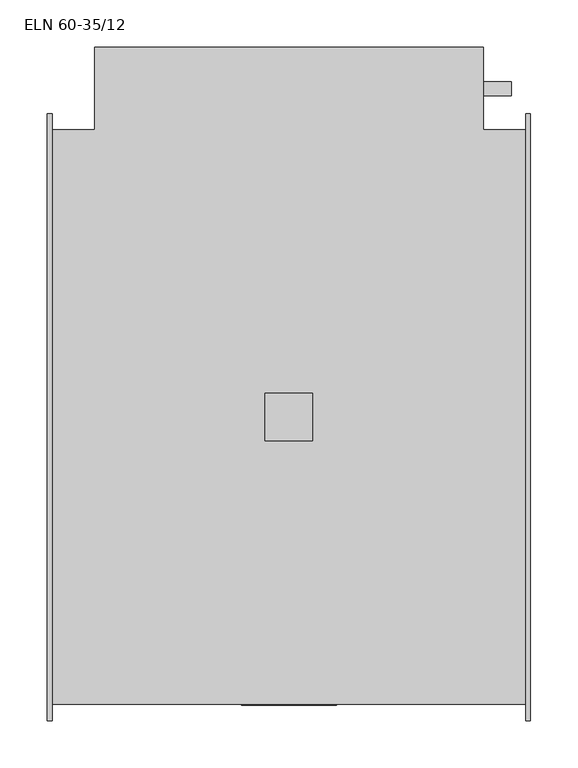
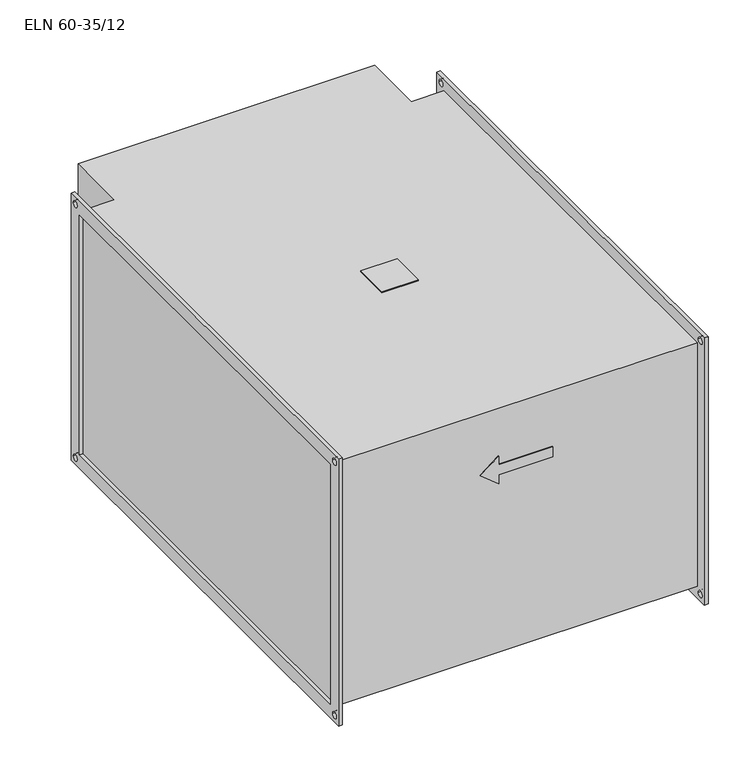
"""IFC4 building model written with IfcOpenShell, lengths in millimetres: proxy geometry, KORF_Нагреватель_Электрический_ELN : ELN 60-35/12."""

from ifc_helpers import new_model, si_unit, point, frame, frame_2d, origin, place, context, project, spatial, polyline, circle_curve, trimmed, segment, composite_curve, outline, extrude, source, transform, mapped, element, save


def eln_60_35_12_623b2ca9(model_context):
    return source(origin(), model_context, "Body", "SweptSolid", [
        extrude(outline(polyline([(230.0, -25.0), (230.0, 25.0), (280.0, 25.0), (280.0, -25.0), (230.0, -25.0)])), frame((0.0, 0.0, 178.0), z_axis=(0.0, 0.0, 1.0), x_axis=(1.0, 0.0, 0.0)), (0.0, 0.0, 1.0), 2.0),
        extrude(outline(composite_curve([segment(trimmed(circle_curve(frame_2d((346.5, -89.0)), 7.5), [point((339.0, -89.0))], [point((354.0, -89.0))], False, "CARTESIAN"), True, "CONTINUOUS"), segment(trimmed(circle_curve(frame_2d((346.5, -89.0)), 7.5), [point((354.0, -89.0))], [point((339.0, -89.0))], False, "CARTESIAN"), True, "CONTINUOUS")], self_intersect=False)), frame((460.0, 0.0, 0.0), z_axis=(1.0, 0.0, 0.0), x_axis=(0.0, 1.0, 0.0)), (0.0, 0.0, 1.0), 30.0),
        extrude(outline(composite_curve([segment(trimmed(circle_curve(frame_2d((346.5, -69.0)), 7.5), [point((339.0, -69.0))], [point((354.0, -69.0))], False, "CARTESIAN"), True, "CONTINUOUS"), segment(trimmed(circle_curve(frame_2d((346.5, -69.0)), 7.5), [point((354.0, -69.0))], [point((339.0, -69.0))], False, "CARTESIAN"), True, "CONTINUOUS")], self_intersect=False)), frame((460.0, 0.0, 0.0), z_axis=(1.0, 0.0, 0.0), x_axis=(0.0, 1.0, 0.0)), (0.0, 0.0, 1.0), 30.0),
        extrude(outline(composite_curve([segment(trimmed(circle_curve(frame_2d((346.5, -109.0)), 7.5), [point((339.0, -109.0))], [point((354.0, -109.0))], False, "CARTESIAN"), True, "CONTINUOUS"), segment(trimmed(circle_curve(frame_2d((346.5, -109.0)), 7.5), [point((354.0, -109.0))], [point((339.0, -109.0))], False, "CARTESIAN"), True, "CONTINUOUS")], self_intersect=False)), frame((460.0, 0.0, 0.0), z_axis=(1.0, 0.0, 0.0), x_axis=(0.0, 1.0, 0.0)), (0.0, 0.0, 1.0), 30.0),
        extrude(outline(polyline([(109.0, 230.0), (89.0, 205.0), (69.0, 230.0), (81.5, 230.0), (81.5, 305.0), (96.5, 305.0), (96.5, 230.0), (109.0, 230.0)])), frame((0.0, -304.0, 0.0), z_axis=(0.0, 1.0, 0.0), x_axis=(0.0, 0.0, 1.0)), (0.0, 0.0, 1.0), 1.0),
        extrude(outline(polyline([(505.0, 303.0), (505.0, -303.0), (5.0, -303.0), (5.0, 303.0), (50.0, 303.0), (50.0, 390.0), (460.0, 390.0), (460.0, 303.0), (505.0, 303.0)])), frame((0.0, 0.0, -178.0), z_axis=(0.0, 0.0, 1.0), x_axis=(1.0, 0.0, 0.0)), (0.0, 0.0, 1.0), 356.0),
        extrude(outline(polyline([(-320.0, 195.0), (320.0, 195.0), (320.0, -195.0), (-320.0, -195.0), (-320.0, 195.0)]), holes=[polyline([(-300.0, 175.0), (-300.0, -175.0), (300.0, -175.0), (300.0, 175.0), (-300.0, 175.0)]), composite_curve([segment(trimmed(circle_curve(frame_2d((310.0, 185.0)), 4.5), [point((305.5, 185.0))], [point((314.5, 185.0))], True, "CARTESIAN"), True, "CONTINUOUS"), segment(trimmed(circle_curve(frame_2d((310.0, 185.0)), 4.5), [point((314.5, 185.0))], [point((305.5, 185.0))], True, "CARTESIAN"), True, "CONTINUOUS")], self_intersect=False), composite_curve([segment(trimmed(circle_curve(frame_2d((-310.0, 185.0)), 4.5), [point((-314.5, 185.0))], [point((-305.5, 185.0))], True, "CARTESIAN"), True, "CONTINUOUS"), segment(trimmed(circle_curve(frame_2d((-310.0, 185.0)), 4.5), [point((-305.5, 185.0))], [point((-314.5, 185.0))], True, "CARTESIAN"), True, "CONTINUOUS")], self_intersect=False), composite_curve([segment(trimmed(circle_curve(frame_2d((-310.0, -185.0)), 4.5), [point((-314.5, -185.0))], [point((-305.5, -185.0))], True, "CARTESIAN"), True, "CONTINUOUS"), segment(trimmed(circle_curve(frame_2d((-310.0, -185.0)), 4.5), [point((-305.5, -185.0))], [point((-314.5, -185.0))], True, "CARTESIAN"), True, "CONTINUOUS")], self_intersect=False), composite_curve([segment(trimmed(circle_curve(frame_2d((310.0, -185.0)), 4.5), [point((305.5, -185.0))], [point((314.5, -185.0))], True, "CARTESIAN"), True, "CONTINUOUS"), segment(trimmed(circle_curve(frame_2d((310.0, -185.0)), 4.5), [point((314.5, -185.0))], [point((305.5, -185.0))], True, "CARTESIAN"), True, "CONTINUOUS")], self_intersect=False)]), frame((505.0, 0.0, 0.0), z_axis=(1.0, 0.0, 0.0), x_axis=(0.0, 1.0, 0.0)), (0.0, 0.0, 1.0), 5.0),
        extrude(outline(polyline([(-320.0, 195.0), (320.0, 195.0), (320.0, -195.0), (-320.0, -195.0), (-320.0, 195.0)]), holes=[polyline([(-300.0, 175.0), (-300.0, -175.0), (300.0, -175.0), (300.0, 175.0), (-300.0, 175.0)]), composite_curve([segment(trimmed(circle_curve(frame_2d((310.0, 185.0)), 4.5), [point((305.5, 185.0))], [point((314.5, 185.0))], True, "CARTESIAN"), True, "CONTINUOUS"), segment(trimmed(circle_curve(frame_2d((310.0, 185.0)), 4.5), [point((314.5, 185.0))], [point((305.5, 185.0))], True, "CARTESIAN"), True, "CONTINUOUS")], self_intersect=False), composite_curve([segment(trimmed(circle_curve(frame_2d((-310.0, 185.0)), 4.5), [point((-314.5, 185.0))], [point((-305.5, 185.0))], True, "CARTESIAN"), True, "CONTINUOUS"), segment(trimmed(circle_curve(frame_2d((-310.0, 185.0)), 4.5), [point((-305.5, 185.0))], [point((-314.5, 185.0))], True, "CARTESIAN"), True, "CONTINUOUS")], self_intersect=False), composite_curve([segment(trimmed(circle_curve(frame_2d((-310.0, -185.0)), 4.5), [point((-314.5, -185.0))], [point((-305.5, -185.0))], True, "CARTESIAN"), True, "CONTINUOUS"), segment(trimmed(circle_curve(frame_2d((-310.0, -185.0)), 4.5), [point((-305.5, -185.0))], [point((-314.5, -185.0))], True, "CARTESIAN"), True, "CONTINUOUS")], self_intersect=False), composite_curve([segment(trimmed(circle_curve(frame_2d((310.0, -185.0)), 4.5), [point((305.5, -185.0))], [point((314.5, -185.0))], True, "CARTESIAN"), True, "CONTINUOUS"), segment(trimmed(circle_curve(frame_2d((310.0, -185.0)), 4.5), [point((314.5, -185.0))], [point((305.5, -185.0))], True, "CARTESIAN"), True, "CONTINUOUS")], self_intersect=False)]), frame((0.0, 0.0, 0.0), z_axis=(1.0, 0.0, 0.0), x_axis=(0.0, 1.0, 0.0)), (0.0, 0.0, 1.0), 5.0),
    ])


if __name__ == "__main__":
    model = new_model("IFC4")
    model_context = context("Model", 3, world=origin())
    ifc_project = project(units=[si_unit("LENGTHUNIT", "METRE", prefix="MILLI")], contexts=[model_context])
    site = spatial("IfcSite", under=ifc_project)
    building = spatial("IfcBuilding", under=site)
    placement = place(None, origin())
    eln_60_35_12_shape = eln_60_35_12_623b2ca9(model_context)
    element("IfcBuildingElementProxy", 1, Name="KORF_Нагреватель_Электрический_ELN : ELN 60-35/12", ObjectType="KORF_Нагреватель_Электрический_ELN : ELN 60-35/12", at=placement, inside=building, context=model_context, shape_type="MappedRepresentation", body=[
        mapped(eln_60_35_12_shape, transform((0.0, 0.0, 0.0), x_axis=(1.0, 0.0, 0.0), y_axis=(0.0, 1.0, 0.0), z_axis=(0.0, 0.0, 1.0))),
    ])
    save(model, "model.ifc")
